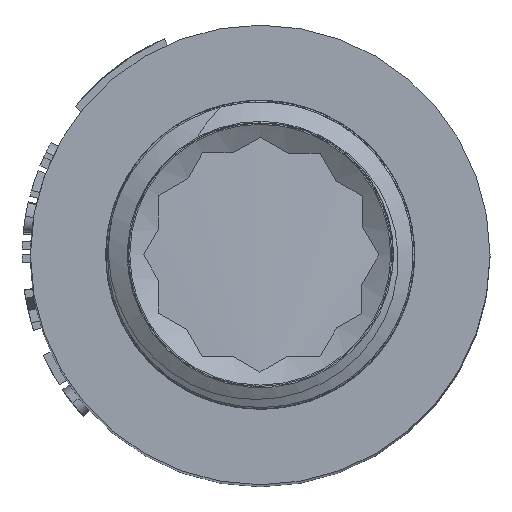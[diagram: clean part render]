
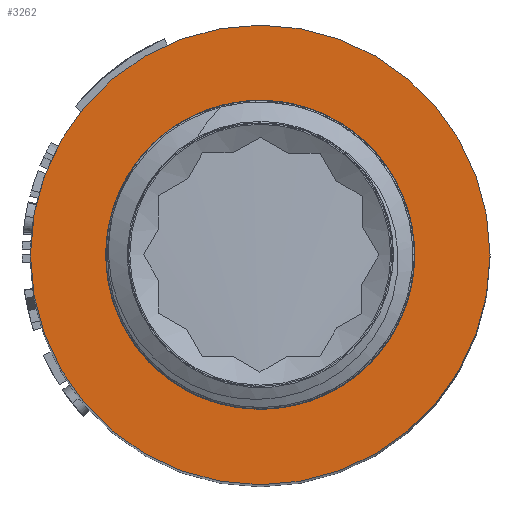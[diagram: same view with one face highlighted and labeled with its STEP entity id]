
A CAD part, top view. The second image highlights one B-rep face of the part: STEP entity #3262.
In plain terms, the highlighted planar face has unit normal (0, 0, 1).
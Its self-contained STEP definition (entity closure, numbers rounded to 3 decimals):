
#81=FACE_BOUND('',#735,.T.);
#397=PLANE('',#3495);
#536=FACE_OUTER_BOUND('',#734,.T.);
#734=EDGE_LOOP('',(#2753,#2754));
#735=EDGE_LOOP('',(#2755,#2756));
#1167=CIRCLE('',#3341,7.825);
#1170=CIRCLE('',#3344,7.825);
#1191=CIRCLE('',#3384,13.65);
#1192=CIRCLE('',#3385,13.65);
#1264=VERTEX_POINT('',#4206);
#1265=VERTEX_POINT('',#4207);
#1312=VERTEX_POINT('',#4454);
#1313=VERTEX_POINT('',#4455);
#1596=EDGE_CURVE('',#1264,#1265,#1167,.T.);
#1600=EDGE_CURVE('',#1265,#1264,#1170,.T.);
#1667=EDGE_CURVE('',#1312,#1313,#1191,.T.);
#1668=EDGE_CURVE('',#1313,#1312,#1192,.T.);
#2753=ORIENTED_EDGE('',*,*,#1667,.T.);
#2754=ORIENTED_EDGE('',*,*,#1668,.T.);
#2755=ORIENTED_EDGE('',*,*,#1596,.F.);
#2756=ORIENTED_EDGE('',*,*,#1600,.F.);
#3262=ADVANCED_FACE('',(#536,#81),#397,.T.);
#3341=AXIS2_PLACEMENT_3D('',#4208,#3570,#3571);
#3344=AXIS2_PLACEMENT_3D('',#4214,#3577,#3578);
#3384=AXIS2_PLACEMENT_3D('',#4456,#3693,#3694);
#3385=AXIS2_PLACEMENT_3D('',#4457,#3695,#3696);
#3495=AXIS2_PLACEMENT_3D('',#6275,#4031,#4032);
#3570=DIRECTION('center_axis',(0.,0.,1.));
#3571=DIRECTION('ref_axis',(1.,0.,0.));
#3577=DIRECTION('center_axis',(0.,0.,1.));
#3578=DIRECTION('ref_axis',(1.,0.,0.));
#3693=DIRECTION('center_axis',(0.,0.,1.));
#3694=DIRECTION('ref_axis',(1.,0.,0.));
#3695=DIRECTION('center_axis',(0.,0.,1.));
#3696=DIRECTION('ref_axis',(1.,0.,0.));
#4031=DIRECTION('center_axis',(0.,0.,1.));
#4032=DIRECTION('ref_axis',(1.,0.,0.));
#4206=CARTESIAN_POINT('',(0.,7.825,-10.));
#4207=CARTESIAN_POINT('',(0.,-7.825,-10.));
#4208=CARTESIAN_POINT('Origin',(0.,0.,-10.));
#4214=CARTESIAN_POINT('Origin',(0.,0.,-10.));
#4454=CARTESIAN_POINT('',(0.,-13.65,-10.));
#4455=CARTESIAN_POINT('',(0.,13.65,-10.));
#4456=CARTESIAN_POINT('Origin',(0.,0.,-10.));
#4457=CARTESIAN_POINT('Origin',(0.,0.,-10.));
#6275=CARTESIAN_POINT('Origin',(0.,-9.17,-10.));
